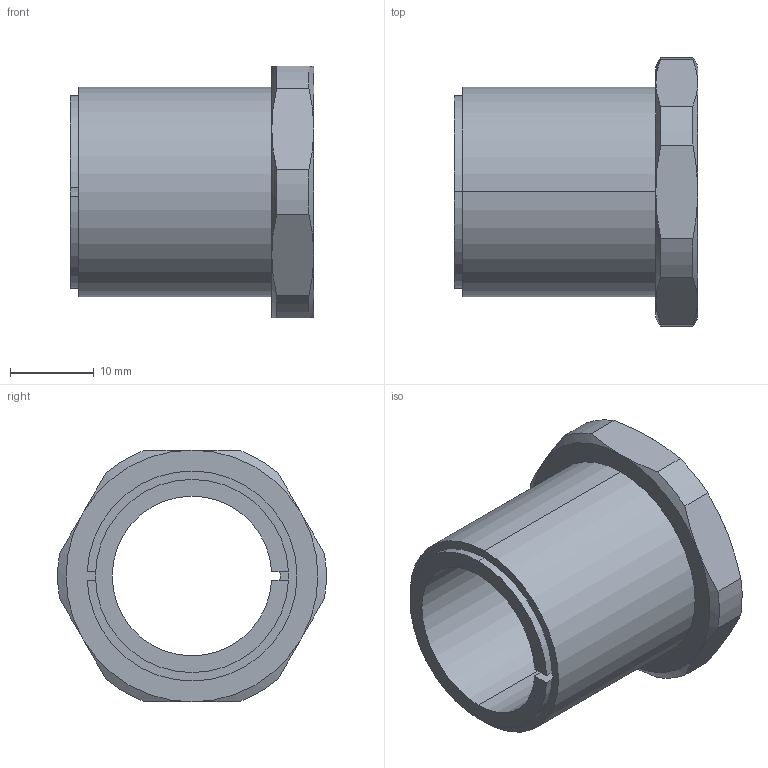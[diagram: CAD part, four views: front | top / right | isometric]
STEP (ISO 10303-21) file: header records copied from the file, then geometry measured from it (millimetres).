
FILE_DESCRIPTION (( 'STEP AP203' ), '1' );
FILE_NAME ('KBS 57 - 19 x 25.STEP', '2015-07-05T18:35:19', ( '' ), ( '' ), 'SwSTEP 2.0', 'SolidWorks 2010', '' );
FILE_SCHEMA (( 'CONFIG_CONTROL_DESIGN' ));
Length unit declared in the file: millimetre
Products named in the file (1): KBS 57 - 19 x 25
Bounding box: 29 x 31.95 x 30 mm (x, y, z)
Volume: 7111 mm3; surface area: 5173.6 mm2
Topology: 1 solids, 1 shells, 47 faces, 118 edges, 74 vertices
Faces by surface type: cylinder 16, plane 16, cone 15
Entity records: 1557 total; most frequent: CARTESIAN_POINT 356, DIRECTION 240, ORIENTED_EDGE 236, EDGE_CURVE 118, AXIS2_PLACEMENT_3D 100, VERTEX_POINT 74, CIRCLE 52, EDGE_LOOP 50
